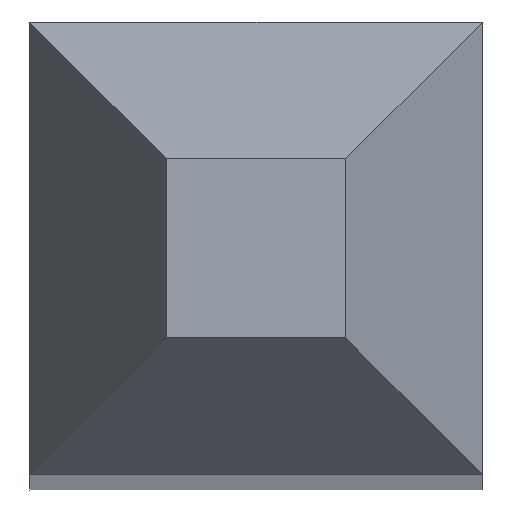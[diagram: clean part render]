
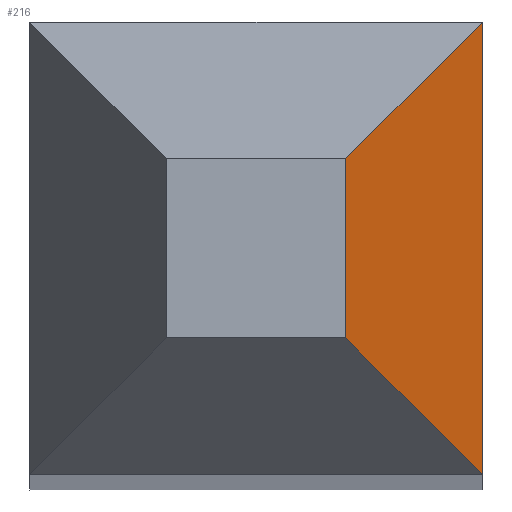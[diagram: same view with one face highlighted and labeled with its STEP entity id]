
A CAD part, top view. The second image highlights one B-rep face of the part: STEP entity #216.
In plain terms, the highlighted planar face has unit normal (0.873, 0, 0.488).
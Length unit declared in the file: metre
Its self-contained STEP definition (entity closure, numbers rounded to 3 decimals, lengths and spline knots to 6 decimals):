
#36=ORIENTED_EDGE('',*,*,#84,.T.);
#37=ORIENTED_EDGE('',*,*,#85,.T.);
#38=ORIENTED_EDGE('',*,*,#80,.F.);
#39=ORIENTED_EDGE('',*,*,#86,.T.);
#80=EDGE_CURVE('',#104,#105,#124,.T.);
#84=EDGE_CURVE('',#108,#109,#128,.T.);
#85=EDGE_CURVE('',#109,#105,#129,.T.);
#86=EDGE_CURVE('',#104,#108,#130,.F.);
#104=VERTEX_POINT('',#329);
#105=VERTEX_POINT('',#330);
#108=VERTEX_POINT('',#338);
#109=VERTEX_POINT('',#339);
#124=LINE('',#328,#152);
#128=LINE('',#337,#156);
#129=LINE('',#340,#157);
#130=LINE('',#341,#158);
#152=VECTOR('',#269,1.);
#156=VECTOR('',#275,1.);
#157=VECTOR('',#276,1.);
#158=VECTOR('',#277,1.);
#174=EDGE_LOOP('',(#36,#37,#38,#39));
#188=FACE_BOUND('',#174,.T.);
#202=PLANE('',#235);
#216=ADVANCED_FACE('',(#188),#202,.T.);
#235=AXIS2_PLACEMENT_3D('',#336,#273,#274);
#269=DIRECTION('',(0.438,0.439,-0.784));
#273=DIRECTION('',(0.873,0.,0.488));
#274=DIRECTION('',(0.488,0.,-0.873));
#275=DIRECTION('',(0.439,-0.438,-0.785));
#276=DIRECTION('',(0.,1.,0.));
#277=DIRECTION('',(0.,1.,0.));
#328=CARTESIAN_POINT('',(-0.044425,-0.001145,-0.018904));
#329=CARTESIAN_POINT('',(-0.044425,-0.001145,-0.018904));
#330=CARTESIAN_POINT('',(-0.044235,-0.000955,-0.019244));
#336=CARTESIAN_POINT('',(-0.04443,-0.000945,-0.018896));
#337=CARTESIAN_POINT('',(-0.044425,-0.001395,-0.018904));
#338=CARTESIAN_POINT('',(-0.044425,-0.001395,-0.018904));
#339=CARTESIAN_POINT('',(-0.044235,-0.001585,-0.019244));
#340=CARTESIAN_POINT('',(-0.044235,-0.000945,-0.019244));
#341=CARTESIAN_POINT('',(-0.044425,-0.000945,-0.018904));
